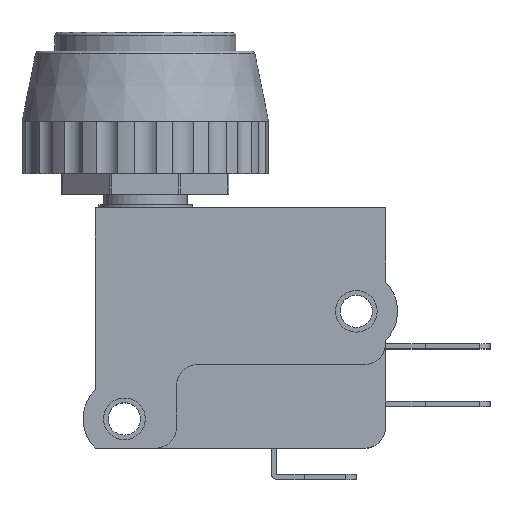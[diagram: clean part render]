
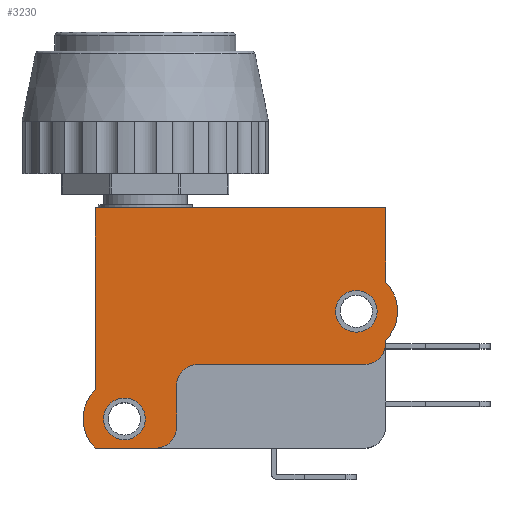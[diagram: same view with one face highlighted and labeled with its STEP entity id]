
A CAD part, top view. The second image highlights one B-rep face of the part: STEP entity #3230.
In plain terms, the highlighted planar face has unit normal (0, 0, 1).
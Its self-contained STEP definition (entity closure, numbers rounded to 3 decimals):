
#52=FACE_BOUND('',#743,.T.);
#53=FACE_BOUND('',#744,.T.);
#109=CIRCLE('',#3443,2.);
#117=CIRCLE('',#3454,2.);
#118=CIRCLE('',#3457,2.);
#121=CIRCLE('',#3465,2.);
#122=CIRCLE('',#3467,2.);
#123=CIRCLE('',#3472,3.96);
#124=CIRCLE('',#3475,3.96);
#535=FACE_OUTER_BOUND('',#742,.T.);
#742=EDGE_LOOP('',(#2667,#2668,#2669,#2670,#2671,#2672,#2673,#2674,#2675,
#2676,#2677,#2678));
#743=EDGE_LOOP('',(#2679));
#744=EDGE_LOOP('',(#2680));
#1000=LINE('',#5100,#1280);
#1009=LINE('',#5133,#1289);
#1013=LINE('',#5142,#1293);
#1022=LINE('',#5171,#1302);
#1024=LINE('',#5175,#1304);
#1026=LINE('',#5179,#1306);
#1028=LINE('',#5184,#1308);
#1280=VECTOR('',#4111,0.3);
#1289=VECTOR('',#4140,5.8);
#1293=VECTOR('',#4150,16.);
#1302=VECTOR('',#4179,17.4);
#1304=VECTOR('',#4183,27.8);
#1306=VECTOR('',#4187,7.1);
#1308=VECTOR('',#4195,4.);
#1535=VERTEX_POINT('',#5087);
#1536=VERTEX_POINT('',#5088);
#1540=VERTEX_POINT('',#5098);
#1552=VERTEX_POINT('',#5126);
#1553=VERTEX_POINT('',#5127);
#1554=VERTEX_POINT('',#5132);
#1555=VERTEX_POINT('',#5136);
#1556=VERTEX_POINT('',#5138);
#1563=VERTEX_POINT('',#5162);
#1564=VERTEX_POINT('',#5165);
#1565=VERTEX_POINT('',#5168);
#1566=VERTEX_POINT('',#5170);
#1567=VERTEX_POINT('',#5174);
#1568=VERTEX_POINT('',#5178);
#1912=EDGE_CURVE('',#1535,#1536,#109,.T.);
#1918=EDGE_CURVE('',#1535,#1540,#1000,.T.);
#1931=EDGE_CURVE('',#1552,#1553,#117,.T.);
#1934=EDGE_CURVE('',#1554,#1553,#1009,.T.);
#1937=EDGE_CURVE('',#1555,#1556,#118,.T.);
#1939=EDGE_CURVE('',#1555,#1536,#1013,.T.);
#1949=EDGE_CURVE('',#1563,#1563,#121,.T.);
#1950=EDGE_CURVE('',#1564,#1564,#122,.T.);
#1952=EDGE_CURVE('',#1566,#1565,#1022,.T.);
#1954=EDGE_CURVE('',#1567,#1566,#1024,.T.);
#1956=EDGE_CURVE('',#1568,#1567,#1026,.T.);
#1958=EDGE_CURVE('',#1540,#1568,#123,.T.);
#1959=EDGE_CURVE('',#1552,#1556,#1028,.T.);
#1960=EDGE_CURVE('',#1565,#1554,#124,.T.);
#2667=ORIENTED_EDGE('',*,*,#1912,.F.);
#2668=ORIENTED_EDGE('',*,*,#1918,.T.);
#2669=ORIENTED_EDGE('',*,*,#1958,.T.);
#2670=ORIENTED_EDGE('',*,*,#1956,.T.);
#2671=ORIENTED_EDGE('',*,*,#1954,.T.);
#2672=ORIENTED_EDGE('',*,*,#1952,.T.);
#2673=ORIENTED_EDGE('',*,*,#1960,.T.);
#2674=ORIENTED_EDGE('',*,*,#1934,.T.);
#2675=ORIENTED_EDGE('',*,*,#1931,.F.);
#2676=ORIENTED_EDGE('',*,*,#1959,.T.);
#2677=ORIENTED_EDGE('',*,*,#1937,.F.);
#2678=ORIENTED_EDGE('',*,*,#1939,.T.);
#2679=ORIENTED_EDGE('',*,*,#1949,.T.);
#2680=ORIENTED_EDGE('',*,*,#1950,.T.);
#3107=PLANE('',#3476);
#3230=ADVANCED_FACE('',(#535,#52,#53),#3107,.T.);
#3443=AXIS2_PLACEMENT_3D('',#5089,#4101,#4102);
#3454=AXIS2_PLACEMENT_3D('',#5128,#4134,#4135);
#3457=AXIS2_PLACEMENT_3D('',#5139,#4145,#4146);
#3465=AXIS2_PLACEMENT_3D('',#5163,#4170,#4171);
#3467=AXIS2_PLACEMENT_3D('',#5166,#4174,#4175);
#3472=AXIS2_PLACEMENT_3D('',#5182,#4191,#4192);
#3475=AXIS2_PLACEMENT_3D('',#5186,#4198,#4199);
#3476=AXIS2_PLACEMENT_3D('',#5187,#4200,#4201);
#4101=DIRECTION('center_axis',(0.,0.,-1.));
#4102=DIRECTION('ref_axis',(0.707,-0.707,0.));
#4111=DIRECTION('',(0.,1.,0.));
#4134=DIRECTION('center_axis',(0.,0.,-1.));
#4135=DIRECTION('ref_axis',(0.707,-0.707,0.));
#4140=DIRECTION('',(1.,0.,0.));
#4145=DIRECTION('center_axis',(0.,0.,1.));
#4146=DIRECTION('ref_axis',(-0.707,0.707,0.));
#4150=DIRECTION('',(1.,0.,0.));
#4170=DIRECTION('center_axis',(0.,0.,-1.));
#4171=DIRECTION('ref_axis',(-1.,0.,0.));
#4174=DIRECTION('center_axis',(0.,0.,-1.));
#4175=DIRECTION('ref_axis',(-1.,0.,0.));
#4179=DIRECTION('',(0.,-1.,0.));
#4183=DIRECTION('',(-1.,0.,0.));
#4187=DIRECTION('',(0.,1.,0.));
#4191=DIRECTION('center_axis',(0.,0.,1.));
#4192=DIRECTION('ref_axis',(0.707,-0.707,0.));
#4195=DIRECTION('',(0.,1.,0.));
#4198=DIRECTION('center_axis',(0.,0.,1.));
#4199=DIRECTION('ref_axis',(-0.707,0.707,0.));
#4200=DIRECTION('center_axis',(0.,0.,1.));
#4201=DIRECTION('ref_axis',(1.,0.,0.));
#5087=CARTESIAN_POINT('',(13.9,2.05,6.25));
#5088=CARTESIAN_POINT('',(11.9,0.05,6.25));
#5089=CARTESIAN_POINT('Origin',(11.9,2.05,6.25));
#5098=CARTESIAN_POINT('',(13.9,2.35,6.25));
#5100=CARTESIAN_POINT('',(13.9,0.05,6.25));
#5126=CARTESIAN_POINT('',(-6.1,-5.95,6.25));
#5127=CARTESIAN_POINT('',(-8.1,-7.95,6.25));
#5128=CARTESIAN_POINT('Origin',(-8.1,-5.95,6.25));
#5132=CARTESIAN_POINT('',(-13.9,-7.95,6.25));
#5133=CARTESIAN_POINT('',(-13.9,-7.95,6.25));
#5136=CARTESIAN_POINT('',(-4.1,0.05,6.25));
#5138=CARTESIAN_POINT('',(-6.1,-1.95,6.25));
#5139=CARTESIAN_POINT('Origin',(-4.1,-1.95,6.25));
#5142=CARTESIAN_POINT('',(-6.1,0.05,6.25));
#5162=CARTESIAN_POINT('',(13.1,5.15,6.25));
#5163=CARTESIAN_POINT('Origin',(11.1,5.15,6.25));
#5165=CARTESIAN_POINT('',(-9.1,-5.15,6.25));
#5166=CARTESIAN_POINT('Origin',(-11.1,-5.15,6.25));
#5168=CARTESIAN_POINT('',(-13.9,-2.35,6.25));
#5170=CARTESIAN_POINT('',(-13.9,15.05,6.25));
#5171=CARTESIAN_POINT('',(-13.9,15.05,6.25));
#5174=CARTESIAN_POINT('',(13.9,15.05,6.25));
#5175=CARTESIAN_POINT('',(13.9,15.05,6.25));
#5178=CARTESIAN_POINT('',(13.9,7.95,6.25));
#5179=CARTESIAN_POINT('',(13.9,7.95,6.25));
#5182=CARTESIAN_POINT('Origin',(11.1,5.15,6.25));
#5184=CARTESIAN_POINT('',(-6.1,-7.95,6.25));
#5186=CARTESIAN_POINT('Origin',(-11.1,-5.15,6.25));
#5187=CARTESIAN_POINT('Origin',(-1.604,5.221,6.25));
